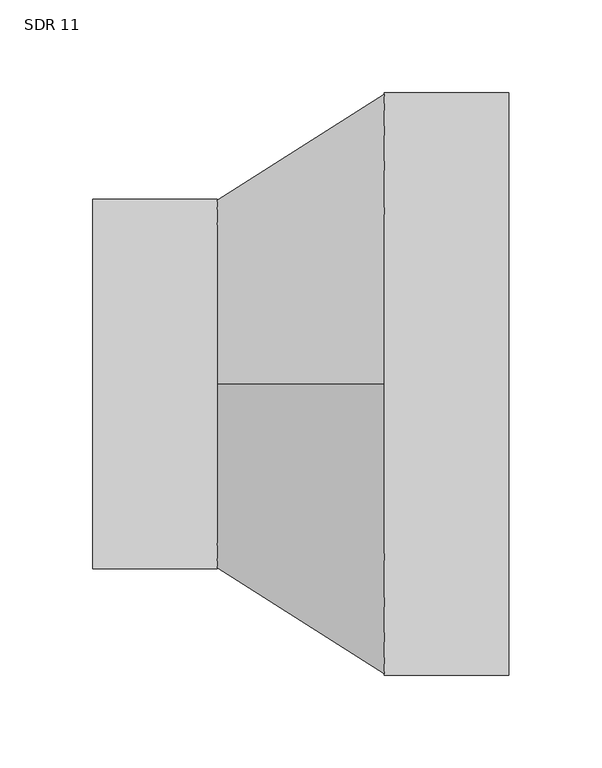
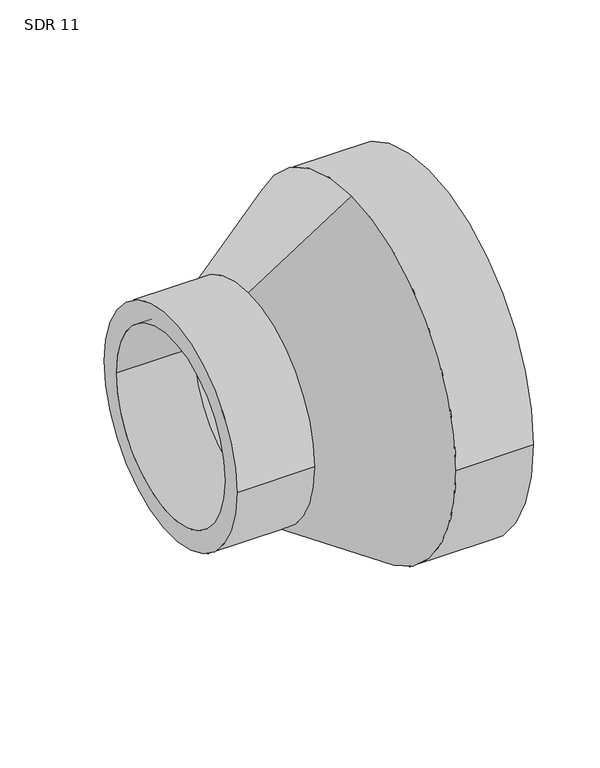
"""IFC4 building model written with IfcOpenShell, lengths in millimetres: pipe fitting geometry, Aquatherm - Reducing Coupling Combined - METRIC : SDR 11."""

from ifc_helpers import new_model, si_unit, frame, origin, place, context, project, spatial, polyline, circle_curve, source, transform, mapped, element, save
from ifc_brep_helpers import plane_surface, cylinder_surface, revolved_surface, advanced_brep


def sdr_11_24e35b33(model_context):
    return source(origin(), model_context, "Body", "AdvancedBrep", [
        advanced_brep(
        [(-112.522, -99.949, 0.0), (-112.522, 99.949, 0.0), (-112.522, -81.7764545, 0.0), (-112.522, 81.7764545, 0.0), (-45.0088, 81.7764545, 0.0), (-45.0088, 0.0, 81.7764545), (-45.0088, -81.7764545, 0.0), (-45.0088, 0.0, -81.7764545), (-45.0088, 99.949, 0.0), (-45.0088, 0.0, -99.949), (-45.0088, -99.949, 0.0), (-45.0088, 0.0, 99.949), (112.522, -157.48, 0.0), (112.522, 157.48, 0.0), (112.522, -128.8472727, 0.0), (112.522, 128.8472727, 0.0), (45.0088, -157.48, 0.0), (45.0088, 0.0, -157.48), (45.0088, 157.48, 0.0), (45.0088, 0.0, 157.48), (45.0088, -128.8472727, 0.0), (45.0088, 0.0, 128.8472727), (45.0088, 128.8472727, 0.0), (45.0088, 0.0, -128.8472727)],
        [
            (0, 1, circle_curve(frame((-112.522, 0.0, 0.0), z_axis=(-1.0, 0.0, 0.0), x_axis=(0.0, 1.0, 0.0)), 99.949)),
            (1, 0, circle_curve(frame((-112.522, 0.0, 0.0), z_axis=(-1.0, 0.0, 0.0), x_axis=(0.0, 1.0, 0.0)), 99.949)),
            (2, 3, circle_curve(frame((-112.522, 0.0, 0.0), z_axis=(1.0, 0.0, 0.0), x_axis=(0.0, 1.0, 0.0)), 81.7764545)),
            (3, 2, circle_curve(frame((-112.522, 0.0, 0.0), z_axis=(1.0, 0.0, 0.0), x_axis=(0.0, 1.0, 0.0)), 81.7764545)),
            (3, 4),
            (4, 5, circle_curve(frame((-45.0088, 0.0, 0.0), z_axis=(1.0, 0.0, 0.0), x_axis=(0.0, 1.0, 0.0)), 81.7764545)),
            (5, 6, circle_curve(frame((-45.0088, 0.0, 0.0), z_axis=(1.0, 0.0, 0.0), x_axis=(0.0, 1.0, 0.0)), 81.7764545)),
            (6, 2),
            (6, 7, circle_curve(frame((-45.0088, 0.0, 0.0), z_axis=(1.0, 0.0, 0.0), x_axis=(0.0, 1.0, 0.0)), 81.7764545)),
            (7, 4, circle_curve(frame((-45.0088, 0.0, 0.0), z_axis=(1.0, 0.0, 0.0), x_axis=(0.0, 1.0, 0.0)), 81.7764545)),
            (1, 8),
            (8, 9, circle_curve(frame((-45.0088, 0.0, 0.0), z_axis=(-1.0, 0.0, 0.0), x_axis=(0.0, 1.0, 0.0)), 99.949)),
            (9, 10, circle_curve(frame((-45.0088, 0.0, 0.0), z_axis=(-1.0, 0.0, 0.0), x_axis=(0.0, 1.0, 0.0)), 99.949)),
            (10, 0),
            (10, 11, circle_curve(frame((-45.0088, 0.0, 0.0), z_axis=(-1.0, 0.0, 0.0), x_axis=(0.0, 1.0, 0.0)), 99.949)),
            (11, 8, circle_curve(frame((-45.0088, 0.0, 0.0), z_axis=(-1.0, 0.0, 0.0), x_axis=(0.0, 1.0, 0.0)), 99.949)),
            (12, 13, circle_curve(frame((112.522, 0.0, 0.0), z_axis=(1.0, 0.0, 0.0), x_axis=(0.0, 1.0, 0.0)), 157.48)),
            (13, 12, circle_curve(frame((112.522, 0.0, 0.0), z_axis=(1.0, 0.0, 0.0), x_axis=(0.0, 1.0, 0.0)), 157.48)),
            (14, 15, circle_curve(frame((112.522, 0.0, 0.0), z_axis=(-1.0, 0.0, 0.0), x_axis=(0.0, 1.0, 0.0)), 128.8472727)),
            (15, 14, circle_curve(frame((112.522, 0.0, 0.0), z_axis=(-1.0, 0.0, 0.0), x_axis=(0.0, 1.0, 0.0)), 128.8472727)),
            (12, 16),
            (16, 17, circle_curve(frame((45.0088, 0.0, 0.0), z_axis=(1.0, 0.0, 0.0), x_axis=(0.0, 1.0, 0.0)), 157.48)),
            (17, 18, circle_curve(frame((45.0088, 0.0, 0.0), z_axis=(1.0, 0.0, 0.0), x_axis=(0.0, 1.0, 0.0)), 157.48)),
            (18, 13),
            (18, 19, circle_curve(frame((45.0088, 0.0, 0.0), z_axis=(1.0, 0.0, 0.0), x_axis=(0.0, 1.0, 0.0)), 157.48)),
            (19, 16, circle_curve(frame((45.0088, 0.0, 0.0), z_axis=(1.0, 0.0, 0.0), x_axis=(0.0, 1.0, 0.0)), 157.48)),
            (14, 20),
            (20, 21, circle_curve(frame((45.0088, 0.0, 0.0), z_axis=(-1.0, 0.0, 0.0), x_axis=(0.0, 1.0, 0.0)), 128.8472727)),
            (21, 22, circle_curve(frame((45.0088, 0.0, 0.0), z_axis=(-1.0, 0.0, 0.0), x_axis=(0.0, 1.0, 0.0)), 128.8472727)),
            (22, 15),
            (22, 23, circle_curve(frame((45.0088, 0.0, 0.0), z_axis=(-1.0, 0.0, 0.0), x_axis=(0.0, 1.0, 0.0)), 128.8472727)),
            (23, 20, circle_curve(frame((45.0088, 0.0, 0.0), z_axis=(-1.0, 0.0, 0.0), x_axis=(0.0, 1.0, 0.0)), 128.8472727)),
            (11, 19),
            (17, 9),
            (21, 5),
            (7, 23),
        ],
        [
            plane_surface(frame((-112.522, 81.7764545, 0.0), z_axis=(-1.0, 0.0, 0.0), x_axis=(0.0, 0.0, 1.0))),
            revolved_surface(polyline([(-112.522, 81.7764545, 0.0), (-45.008799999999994, 81.7764545, 0.0)]), (-112.522, 0.0, 0.0), (-1.0, 0.0, 0.0)),
            cylinder_surface(frame((0.0, 0.0, 0.0), z_axis=(1.0, 0.0, 0.0), x_axis=(0.0, 1.0, 0.0)), 99.949),
            plane_surface(frame((112.522, 157.48, 0.0), z_axis=(1.0, 0.0, 0.0), x_axis=(0.0, 0.0, 1.0))),
            cylinder_surface(frame((45.0088, 0.0, 0.0), z_axis=(1.0, 0.0, 0.0), x_axis=(0.0, 1.0, 0.0)), 157.48),
            revolved_surface(polyline([(45.0088, 128.8472727, 0.0), (112.522, 128.8472727, 0.0)]), (0.0, 0.0, 0.0), (-1.0, 0.0, 0.0)),
            revolved_surface(polyline([(45.0088, 0.0, 157.48), (-45.0088, 0.0, 99.949)]), (-687.7815384, 0.0, 0.0), (-1.0, 0.0, 0.0)),
            revolved_surface(polyline([(-45.0088, 0.0, 81.7764545), (45.0088, 0.0, 128.8472727)]), (-687.7815384, 0.0, 0.0), (-1.0, 0.0, 0.0)),
        ],
        [
            (0, [[1, 2], [3, 4]]),
            (1, [[-4, 5, 6, 7, 8]]),
            (1, [[-3, -8, 9, 10, -5]]),
            (2, [[-2, 11, 12, 13, 14]]),
            (2, [[-1, -14, 15, 16, -11]]),
            (3, [[17, 18], [19, 20]]),
            (4, [[-17, 21, 22, 23, 24]]),
            (4, [[-18, -24, 25, 26, -21]]),
            (5, [[-19, 27, 28, 29, 30]]),
            (5, [[-20, -30, 31, 32, -27]]),
            (6, [[33, -25, -23, 34, -12, -16]]),
            (6, [[-33, -15, -13, -34, -22, -26]]),
            (7, [[35, -6, -10, 36, -31, -29]]),
            (7, [[-35, -28, -32, -36, -9, -7]]),
        ],
    ),
    ])


if __name__ == "__main__":
    model = new_model("IFC4")
    model_context = context("Model", 3, world=origin())
    ifc_project = project(units=[si_unit("LENGTHUNIT", "METRE", prefix="MILLI")], contexts=[model_context])
    site = spatial("IfcSite", under=ifc_project)
    building = spatial("IfcBuilding", under=site)
    placement = place(None, origin())
    sdr_11_shape = sdr_11_24e35b33(model_context)
    element("IfcPipeFitting", 1, ObjectType="Aquatherm - Reducing Coupling Combined - METRIC : SDR 11", at=placement, inside=building, context=model_context, shape_type="MappedRepresentation", body=[
        mapped(sdr_11_shape, transform((0.0, 0.0, 0.0), x_axis=(1.0, 0.0, 0.0), y_axis=(0.0, 1.0, 0.0), z_axis=(0.0, 0.0, 1.0))),
    ])
    save(model, "model.ifc")
